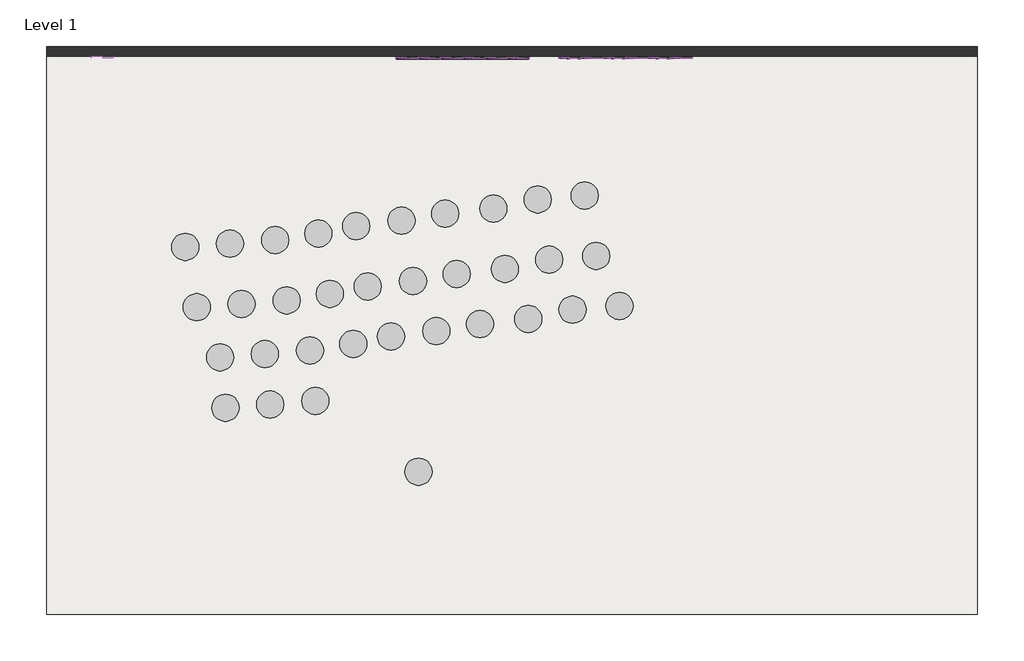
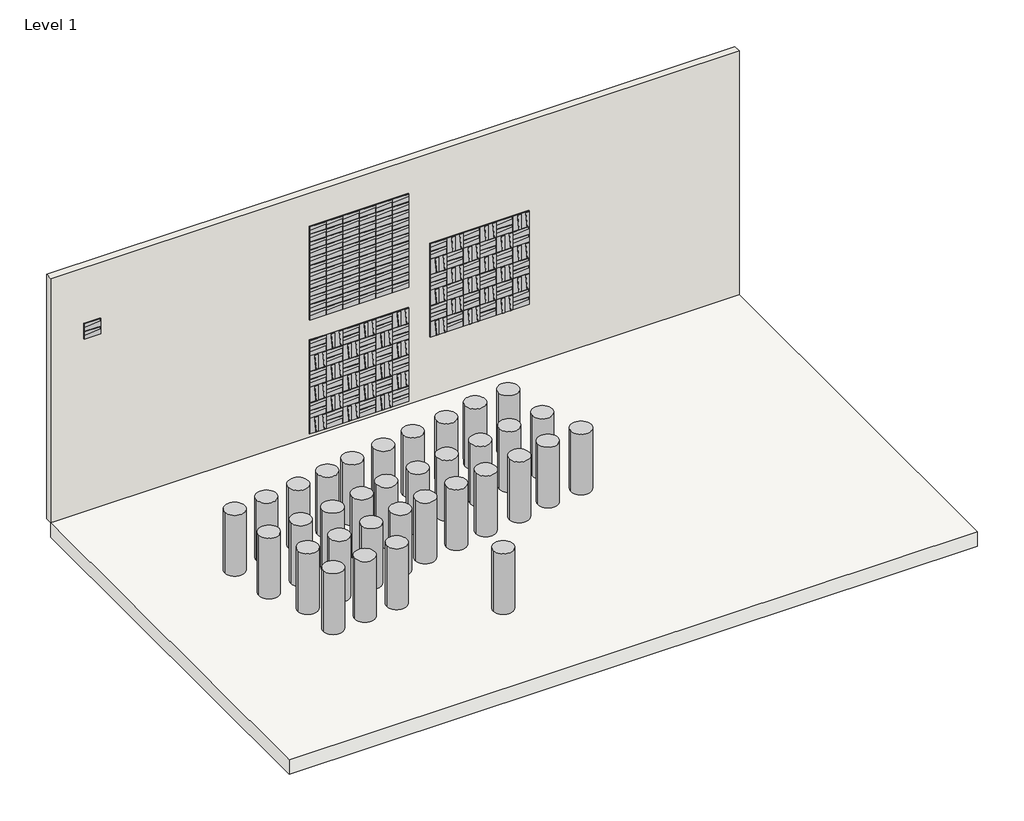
# One storey: 109 proxies, 1 furniture element, 1 slab, 1 wall.
"""IFC4 building model written with IfcOpenShell, lengths in millimetres."""

from ifc_helpers import new_model, si_unit, frame, origin, origin_with_axes, place, context, project, spatial, polyline, outline, extrude, transform, mapped, element, save
from components import dash_tile_b588e03b, furniture_systems_1_furniture_systems_1_472282ec

model = new_model("IFC4")

# Units and contexts
model_context = context("Model", 3, world=origin())
ifc_project = project(units=[si_unit("LENGTHUNIT", "METRE", prefix="MILLI")], contexts=[model_context])

# Site, building, storey
site = spatial("IfcSite", under=ifc_project)
building = spatial("IfcBuilding", under=site)
storey = spatial("IfcBuildingStorey", under=building, Name="Level 1", Elevation=0.0)

# Proxies
placement = place(None, origin())
dash_tile_shape = dash_tile_b588e03b(model_context)
element("IfcBuildingElementProxy", 1, Name="Wall-Panel-Kirei-EchoPanel-Dash_Tile : Dash Tile", ObjectType="Wall-Panel-Kirei-EchoPanel-Dash_Tile : Dash Tile", at=placement, inside=storey, context=model_context, shape_type="MappedRepresentation", body=[
    mapped(dash_tile_shape, transform((-9972.7431076, 6040.5236992, 3384.4821428), x_axis=(1.0, 0.0, 0.0), y_axis=(0.0, 0.0, 1.0), z_axis=(0.0, -1.0, 0.0))),
])
element("IfcBuildingElementProxy", 2, Name="Wall-Panel-Kirei-EchoPanel-Dash_Tile : Dash Tile", ObjectType="Wall-Panel-Kirei-EchoPanel-Dash_Tile : Dash Tile", at=placement, inside=storey, context=model_context, shape_type="MappedRepresentation", body=[
    mapped(dash_tile_shape, transform((-5692.0491633, 6028.5182304, 3816.3740148), x_axis=(1.0, 0.0, 0.0), y_axis=(0.0, 0.0, 1.0), z_axis=(0.0, -1.0, 0.0))),
])
element("IfcBuildingElementProxy", 3, Name="Wall-Panel-Kirei-EchoPanel-Dash_Tile : Dash Tile", ObjectType="Wall-Panel-Kirei-EchoPanel-Dash_Tile : Dash Tile", at=placement, inside=storey, context=model_context, shape_type="MappedRepresentation", body=[
    mapped(dash_tile_shape, transform((-5984.1491633, 6028.5182304, 3816.3740148), x_axis=(1.0, 0.0, 0.0), y_axis=(0.0, 0.0, 1.0), z_axis=(0.0, -1.0, 0.0))),
])
element("IfcBuildingElementProxy", 4, Name="Wall-Panel-Kirei-EchoPanel-Dash_Tile : Dash Tile", ObjectType="Wall-Panel-Kirei-EchoPanel-Dash_Tile : Dash Tile", at=placement, inside=storey, context=model_context, shape_type="MappedRepresentation", body=[
    mapped(dash_tile_shape, transform((-5399.9491633, 6028.5182304, 3816.3740148), x_axis=(1.0, 0.0, 0.0), y_axis=(0.0, 0.0, 1.0), z_axis=(0.0, -1.0, 0.0))),
])
element("IfcBuildingElementProxy", 5, Name="Wall-Panel-Kirei-EchoPanel-Dash_Tile : Dash Tile", ObjectType="Wall-Panel-Kirei-EchoPanel-Dash_Tile : Dash Tile", at=placement, inside=storey, context=model_context, shape_type="MappedRepresentation", body=[
    mapped(dash_tile_shape, transform((-5107.8491633, 6028.5182304, 3816.3740148), x_axis=(1.0, 0.0, 0.0), y_axis=(0.0, 0.0, 1.0), z_axis=(0.0, -1.0, 0.0))),
])
element("IfcBuildingElementProxy", 6, Name="Wall-Panel-Kirei-EchoPanel-Dash_Tile : Dash Tile", ObjectType="Wall-Panel-Kirei-EchoPanel-Dash_Tile : Dash Tile", at=placement, inside=storey, context=model_context, shape_type="MappedRepresentation", body=[
    mapped(dash_tile_shape, transform((-4815.7491633, 6028.5182304, 3816.3740148), x_axis=(1.0, 0.0, 0.0), y_axis=(0.0, 0.0, 1.0), z_axis=(0.0, -1.0, 0.0))),
])
element("IfcBuildingElementProxy", 7, Name="Wall-Panel-Kirei-EchoPanel-Dash_Tile : Dash Tile", ObjectType="Wall-Panel-Kirei-EchoPanel-Dash_Tile : Dash Tile", at=placement, inside=storey, context=model_context, shape_type="MappedRepresentation", body=[
    mapped(dash_tile_shape, transform((-4523.6491633, 6028.5182304, 3816.3740148), x_axis=(1.0, 0.0, 0.0), y_axis=(0.0, 0.0, 1.0), z_axis=(0.0, -1.0, 0.0))),
])
element("IfcBuildingElementProxy", 8, Name="Wall-Panel-Kirei-EchoPanel-Dash_Tile : Dash Tile", ObjectType="Wall-Panel-Kirei-EchoPanel-Dash_Tile : Dash Tile", at=placement, inside=storey, context=model_context, shape_type="MappedRepresentation", body=[
    mapped(dash_tile_shape, transform((-5984.1491633, 6028.5182304, 3524.2740148), x_axis=(1.0, 0.0, 0.0), y_axis=(0.0, 0.0, 1.0), z_axis=(0.0, -1.0, 0.0))),
])
element("IfcBuildingElementProxy", 9, Name="Wall-Panel-Kirei-EchoPanel-Dash_Tile : Dash Tile", ObjectType="Wall-Panel-Kirei-EchoPanel-Dash_Tile : Dash Tile", at=placement, inside=storey, context=model_context, shape_type="MappedRepresentation", body=[
    mapped(dash_tile_shape, transform((-4523.6491633, 6028.5182304, 3524.2740148), x_axis=(1.0, 0.0, 0.0), y_axis=(0.0, 0.0, 1.0), z_axis=(0.0, -1.0, 0.0))),
])
element("IfcBuildingElementProxy", 10, Name="Wall-Panel-Kirei-EchoPanel-Dash_Tile : Dash Tile", ObjectType="Wall-Panel-Kirei-EchoPanel-Dash_Tile : Dash Tile", at=placement, inside=storey, context=model_context, shape_type="MappedRepresentation", body=[
    mapped(dash_tile_shape, transform((-5692.0491633, 6028.5182304, 3524.2740148), x_axis=(1.0, 0.0, 0.0), y_axis=(0.0, 0.0, 1.0), z_axis=(0.0, -1.0, 0.0))),
])
element("IfcBuildingElementProxy", 11, Name="Wall-Panel-Kirei-EchoPanel-Dash_Tile : Dash Tile", ObjectType="Wall-Panel-Kirei-EchoPanel-Dash_Tile : Dash Tile", at=placement, inside=storey, context=model_context, shape_type="MappedRepresentation", body=[
    mapped(dash_tile_shape, transform((-5399.9491633, 6028.5182304, 3524.2740148), x_axis=(1.0, 0.0, 0.0), y_axis=(0.0, 0.0, 1.0), z_axis=(0.0, -1.0, 0.0))),
])
element("IfcBuildingElementProxy", 12, Name="Wall-Panel-Kirei-EchoPanel-Dash_Tile : Dash Tile", ObjectType="Wall-Panel-Kirei-EchoPanel-Dash_Tile : Dash Tile", at=placement, inside=storey, context=model_context, shape_type="MappedRepresentation", body=[
    mapped(dash_tile_shape, transform((-5107.8491633, 6028.5182304, 3524.2740148), x_axis=(1.0, 0.0, 0.0), y_axis=(0.0, 0.0, 1.0), z_axis=(0.0, -1.0, 0.0))),
])
element("IfcBuildingElementProxy", 13, Name="Wall-Panel-Kirei-EchoPanel-Dash_Tile : Dash Tile", ObjectType="Wall-Panel-Kirei-EchoPanel-Dash_Tile : Dash Tile", at=placement, inside=storey, context=model_context, shape_type="MappedRepresentation", body=[
    mapped(dash_tile_shape, transform((-4815.7491633, 6028.5182304, 3524.2740148), x_axis=(1.0, 0.0, 0.0), y_axis=(0.0, 0.0, 1.0), z_axis=(0.0, -1.0, 0.0))),
])
element("IfcBuildingElementProxy", 14, Name="Wall-Panel-Kirei-EchoPanel-Dash_Tile : Dash Tile", ObjectType="Wall-Panel-Kirei-EchoPanel-Dash_Tile : Dash Tile", at=placement, inside=storey, context=model_context, shape_type="MappedRepresentation", body=[
    mapped(dash_tile_shape, transform((-5692.0491633, 6028.5182304, 3232.1740148), x_axis=(1.0, 0.0, 0.0), y_axis=(0.0, 0.0, 1.0), z_axis=(0.0, -1.0, 0.0))),
])
element("IfcBuildingElementProxy", 15, Name="Wall-Panel-Kirei-EchoPanel-Dash_Tile : Dash Tile", ObjectType="Wall-Panel-Kirei-EchoPanel-Dash_Tile : Dash Tile", at=placement, inside=storey, context=model_context, shape_type="MappedRepresentation", body=[
    mapped(dash_tile_shape, transform((-5984.1491633, 6028.5182304, 3232.1740148), x_axis=(1.0, 0.0, 0.0), y_axis=(0.0, 0.0, 1.0), z_axis=(0.0, -1.0, 0.0))),
])
element("IfcBuildingElementProxy", 16, Name="Wall-Panel-Kirei-EchoPanel-Dash_Tile : Dash Tile", ObjectType="Wall-Panel-Kirei-EchoPanel-Dash_Tile : Dash Tile", at=placement, inside=storey, context=model_context, shape_type="MappedRepresentation", body=[
    mapped(dash_tile_shape, transform((-5399.9491633, 6028.5182304, 3232.1740148), x_axis=(1.0, 0.0, 0.0), y_axis=(0.0, 0.0, 1.0), z_axis=(0.0, -1.0, 0.0))),
])
element("IfcBuildingElementProxy", 17, Name="Wall-Panel-Kirei-EchoPanel-Dash_Tile : Dash Tile", ObjectType="Wall-Panel-Kirei-EchoPanel-Dash_Tile : Dash Tile", at=placement, inside=storey, context=model_context, shape_type="MappedRepresentation", body=[
    mapped(dash_tile_shape, transform((-5107.8491633, 6028.5182304, 3232.1740148), x_axis=(1.0, 0.0, 0.0), y_axis=(0.0, 0.0, 1.0), z_axis=(0.0, -1.0, 0.0))),
])
element("IfcBuildingElementProxy", 18, Name="Wall-Panel-Kirei-EchoPanel-Dash_Tile : Dash Tile", ObjectType="Wall-Panel-Kirei-EchoPanel-Dash_Tile : Dash Tile", at=placement, inside=storey, context=model_context, shape_type="MappedRepresentation", body=[
    mapped(dash_tile_shape, transform((-4815.7491633, 6028.5182304, 3232.1740148), x_axis=(1.0, 0.0, 0.0), y_axis=(0.0, 0.0, 1.0), z_axis=(0.0, -1.0, 0.0))),
])
element("IfcBuildingElementProxy", 19, Name="Wall-Panel-Kirei-EchoPanel-Dash_Tile : Dash Tile", ObjectType="Wall-Panel-Kirei-EchoPanel-Dash_Tile : Dash Tile", at=placement, inside=storey, context=model_context, shape_type="MappedRepresentation", body=[
    mapped(dash_tile_shape, transform((-4523.6491633, 6028.5182304, 3232.1740148), x_axis=(1.0, 0.0, 0.0), y_axis=(0.0, 0.0, 1.0), z_axis=(0.0, -1.0, 0.0))),
])
element("IfcBuildingElementProxy", 20, Name="Wall-Panel-Kirei-EchoPanel-Dash_Tile : Dash Tile", ObjectType="Wall-Panel-Kirei-EchoPanel-Dash_Tile : Dash Tile", at=placement, inside=storey, context=model_context, shape_type="MappedRepresentation", body=[
    mapped(dash_tile_shape, transform((-5984.1491633, 6028.5182304, 2940.0740148), x_axis=(1.0, 0.0, 0.0), y_axis=(0.0, 0.0, 1.0), z_axis=(0.0, -1.0, 0.0))),
])
element("IfcBuildingElementProxy", 21, Name="Wall-Panel-Kirei-EchoPanel-Dash_Tile : Dash Tile", ObjectType="Wall-Panel-Kirei-EchoPanel-Dash_Tile : Dash Tile", at=placement, inside=storey, context=model_context, shape_type="MappedRepresentation", body=[
    mapped(dash_tile_shape, transform((-4523.6491633, 6028.5182304, 2940.0740148), x_axis=(1.0, 0.0, 0.0), y_axis=(0.0, 0.0, 1.0), z_axis=(0.0, -1.0, 0.0))),
])
element("IfcBuildingElementProxy", 22, Name="Wall-Panel-Kirei-EchoPanel-Dash_Tile : Dash Tile", ObjectType="Wall-Panel-Kirei-EchoPanel-Dash_Tile : Dash Tile", at=placement, inside=storey, context=model_context, shape_type="MappedRepresentation", body=[
    mapped(dash_tile_shape, transform((-5692.0491633, 6028.5182304, 2940.0740148), x_axis=(1.0, 0.0, 0.0), y_axis=(0.0, 0.0, 1.0), z_axis=(0.0, -1.0, 0.0))),
])
element("IfcBuildingElementProxy", 23, Name="Wall-Panel-Kirei-EchoPanel-Dash_Tile : Dash Tile", ObjectType="Wall-Panel-Kirei-EchoPanel-Dash_Tile : Dash Tile", at=placement, inside=storey, context=model_context, shape_type="MappedRepresentation", body=[
    mapped(dash_tile_shape, transform((-5399.9491633, 6028.5182304, 2940.0740148), x_axis=(1.0, 0.0, 0.0), y_axis=(0.0, 0.0, 1.0), z_axis=(0.0, -1.0, 0.0))),
])
element("IfcBuildingElementProxy", 24, Name="Wall-Panel-Kirei-EchoPanel-Dash_Tile : Dash Tile", ObjectType="Wall-Panel-Kirei-EchoPanel-Dash_Tile : Dash Tile", at=placement, inside=storey, context=model_context, shape_type="MappedRepresentation", body=[
    mapped(dash_tile_shape, transform((-5107.8491633, 6028.5182304, 2940.0740148), x_axis=(1.0, 0.0, 0.0), y_axis=(0.0, 0.0, 1.0), z_axis=(0.0, -1.0, 0.0))),
])
element("IfcBuildingElementProxy", 25, Name="Wall-Panel-Kirei-EchoPanel-Dash_Tile : Dash Tile", ObjectType="Wall-Panel-Kirei-EchoPanel-Dash_Tile : Dash Tile", at=placement, inside=storey, context=model_context, shape_type="MappedRepresentation", body=[
    mapped(dash_tile_shape, transform((-4815.7491633, 6028.5182304, 2940.0740148), x_axis=(1.0, 0.0, 0.0), y_axis=(0.0, 0.0, 1.0), z_axis=(0.0, -1.0, 0.0))),
])
element("IfcBuildingElementProxy", 26, Name="Wall-Panel-Kirei-EchoPanel-Dash_Tile : Dash Tile", ObjectType="Wall-Panel-Kirei-EchoPanel-Dash_Tile : Dash Tile", at=placement, inside=storey, context=model_context, shape_type="MappedRepresentation", body=[
    mapped(dash_tile_shape, transform((-5692.0491633, 6028.5182304, 2647.9740148), x_axis=(1.0, 0.0, 0.0), y_axis=(0.0, 0.0, 1.0), z_axis=(0.0, -1.0, 0.0))),
])
element("IfcBuildingElementProxy", 27, Name="Wall-Panel-Kirei-EchoPanel-Dash_Tile : Dash Tile", ObjectType="Wall-Panel-Kirei-EchoPanel-Dash_Tile : Dash Tile", at=placement, inside=storey, context=model_context, shape_type="MappedRepresentation", body=[
    mapped(dash_tile_shape, transform((-5984.1491633, 6028.5182304, 2647.9740148), x_axis=(1.0, 0.0, 0.0), y_axis=(0.0, 0.0, 1.0), z_axis=(0.0, -1.0, 0.0))),
])
element("IfcBuildingElementProxy", 28, Name="Wall-Panel-Kirei-EchoPanel-Dash_Tile : Dash Tile", ObjectType="Wall-Panel-Kirei-EchoPanel-Dash_Tile : Dash Tile", at=placement, inside=storey, context=model_context, shape_type="MappedRepresentation", body=[
    mapped(dash_tile_shape, transform((-5399.9491633, 6028.5182304, 2647.9740148), x_axis=(1.0, 0.0, 0.0), y_axis=(0.0, 0.0, 1.0), z_axis=(0.0, -1.0, 0.0))),
])
element("IfcBuildingElementProxy", 29, Name="Wall-Panel-Kirei-EchoPanel-Dash_Tile : Dash Tile", ObjectType="Wall-Panel-Kirei-EchoPanel-Dash_Tile : Dash Tile", at=placement, inside=storey, context=model_context, shape_type="MappedRepresentation", body=[
    mapped(dash_tile_shape, transform((-5107.8491633, 6028.5182304, 2647.9740148), x_axis=(1.0, 0.0, 0.0), y_axis=(0.0, 0.0, 1.0), z_axis=(0.0, -1.0, 0.0))),
])
element("IfcBuildingElementProxy", 30, Name="Wall-Panel-Kirei-EchoPanel-Dash_Tile : Dash Tile", ObjectType="Wall-Panel-Kirei-EchoPanel-Dash_Tile : Dash Tile", at=placement, inside=storey, context=model_context, shape_type="MappedRepresentation", body=[
    mapped(dash_tile_shape, transform((-4815.7491633, 6028.5182304, 2647.9740148), x_axis=(1.0, 0.0, 0.0), y_axis=(0.0, 0.0, 1.0), z_axis=(0.0, -1.0, 0.0))),
])
element("IfcBuildingElementProxy", 31, Name="Wall-Panel-Kirei-EchoPanel-Dash_Tile : Dash Tile", ObjectType="Wall-Panel-Kirei-EchoPanel-Dash_Tile : Dash Tile", at=placement, inside=storey, context=model_context, shape_type="MappedRepresentation", body=[
    mapped(dash_tile_shape, transform((-4523.6491633, 6028.5182304, 2647.9740148), x_axis=(1.0, 0.0, 0.0), y_axis=(0.0, 0.0, 1.0), z_axis=(0.0, -1.0, 0.0))),
])
element("IfcBuildingElementProxy", 32, Name="Wall-Panel-Kirei-EchoPanel-Dash_Tile : Dash Tile", ObjectType="Wall-Panel-Kirei-EchoPanel-Dash_Tile : Dash Tile", at=placement, inside=storey, context=model_context, shape_type="MappedRepresentation", body=[
    mapped(dash_tile_shape, transform((-5984.1491633, 6028.5182304, 2355.8740148), x_axis=(1.0, 0.0, 0.0), y_axis=(0.0, 0.0, 1.0), z_axis=(0.0, -1.0, 0.0))),
])
element("IfcBuildingElementProxy", 33, Name="Wall-Panel-Kirei-EchoPanel-Dash_Tile : Dash Tile", ObjectType="Wall-Panel-Kirei-EchoPanel-Dash_Tile : Dash Tile", at=placement, inside=storey, context=model_context, shape_type="MappedRepresentation", body=[
    mapped(dash_tile_shape, transform((-4523.6491633, 6028.5182304, 2355.8740148), x_axis=(1.0, 0.0, 0.0), y_axis=(0.0, 0.0, 1.0), z_axis=(0.0, -1.0, 0.0))),
])
element("IfcBuildingElementProxy", 34, Name="Wall-Panel-Kirei-EchoPanel-Dash_Tile : Dash Tile", ObjectType="Wall-Panel-Kirei-EchoPanel-Dash_Tile : Dash Tile", at=placement, inside=storey, context=model_context, shape_type="MappedRepresentation", body=[
    mapped(dash_tile_shape, transform((-5692.0491633, 6028.5182304, 2355.8740148), x_axis=(1.0, 0.0, 0.0), y_axis=(0.0, 0.0, 1.0), z_axis=(0.0, -1.0, 0.0))),
])
element("IfcBuildingElementProxy", 35, Name="Wall-Panel-Kirei-EchoPanel-Dash_Tile : Dash Tile", ObjectType="Wall-Panel-Kirei-EchoPanel-Dash_Tile : Dash Tile", at=placement, inside=storey, context=model_context, shape_type="MappedRepresentation", body=[
    mapped(dash_tile_shape, transform((-5399.9491633, 6028.5182304, 2355.8740148), x_axis=(1.0, 0.0, 0.0), y_axis=(0.0, 0.0, 1.0), z_axis=(0.0, -1.0, 0.0))),
])
element("IfcBuildingElementProxy", 36, Name="Wall-Panel-Kirei-EchoPanel-Dash_Tile : Dash Tile", ObjectType="Wall-Panel-Kirei-EchoPanel-Dash_Tile : Dash Tile", at=placement, inside=storey, context=model_context, shape_type="MappedRepresentation", body=[
    mapped(dash_tile_shape, transform((-5107.8491633, 6028.5182304, 2355.8740148), x_axis=(1.0, 0.0, 0.0), y_axis=(0.0, 0.0, 1.0), z_axis=(0.0, -1.0, 0.0))),
])
element("IfcBuildingElementProxy", 37, Name="Wall-Panel-Kirei-EchoPanel-Dash_Tile : Dash Tile", ObjectType="Wall-Panel-Kirei-EchoPanel-Dash_Tile : Dash Tile", at=placement, inside=storey, context=model_context, shape_type="MappedRepresentation", body=[
    mapped(dash_tile_shape, transform((-4815.7491633, 6028.5182304, 2355.8740148), x_axis=(1.0, 0.0, 0.0), y_axis=(0.0, 0.0, 1.0), z_axis=(0.0, -1.0, 0.0))),
])
element("IfcBuildingElementProxy", 38, Name="Wall-Panel-Kirei-EchoPanel-Dash_Tile : Dash Tile", ObjectType="Wall-Panel-Kirei-EchoPanel-Dash_Tile : Dash Tile", at=placement, inside=storey, context=model_context, shape_type="MappedRepresentation", body=[
    mapped(dash_tile_shape, transform((-5984.1491633, 6028.5182304, 1682.7740148), x_axis=(1.0, 0.0, 0.0), y_axis=(0.0, 0.0, 1.0), z_axis=(0.0, -1.0, 0.0))),
])
element("IfcBuildingElementProxy", 39, Name="Wall-Panel-Kirei-EchoPanel-Dash_Tile : Dash Tile", ObjectType="Wall-Panel-Kirei-EchoPanel-Dash_Tile : Dash Tile", at=placement, inside=storey, context=model_context, shape_type="MappedRepresentation", body=[
    mapped(dash_tile_shape, transform((-5399.9491633, 6028.5182304, 1682.7740148), x_axis=(1.0, 0.0, 0.0), y_axis=(0.0, 0.0, 1.0), z_axis=(0.0, -1.0, 0.0))),
])
element("IfcBuildingElementProxy", 40, Name="Wall-Panel-Kirei-EchoPanel-Dash_Tile : Dash Tile", ObjectType="Wall-Panel-Kirei-EchoPanel-Dash_Tile : Dash Tile", at=placement, inside=storey, context=model_context, shape_type="MappedRepresentation", body=[
    mapped(dash_tile_shape, transform((-4815.7491633, 6028.5182304, 1682.7740148), x_axis=(1.0, 0.0, 0.0), y_axis=(0.0, 0.0, 1.0), z_axis=(0.0, -1.0, 0.0))),
])
element("IfcBuildingElementProxy", 41, Name="Wall-Panel-Kirei-EchoPanel-Dash_Tile : Dash Tile", ObjectType="Wall-Panel-Kirei-EchoPanel-Dash_Tile : Dash Tile", at=placement, inside=storey, context=model_context, shape_type="MappedRepresentation", body=[
    mapped(dash_tile_shape, transform((-4523.6491633, 6028.5182304, 1390.6740148), x_axis=(1.0, 0.0, 0.0), y_axis=(0.0, 0.0, 1.0), z_axis=(0.0, -1.0, 0.0))),
])
element("IfcBuildingElementProxy", 42, Name="Wall-Panel-Kirei-EchoPanel-Dash_Tile : Dash Tile", ObjectType="Wall-Panel-Kirei-EchoPanel-Dash_Tile : Dash Tile", at=placement, inside=storey, context=model_context, shape_type="MappedRepresentation", body=[
    mapped(dash_tile_shape, transform((-5692.0491633, 6028.5182304, 1390.6740148), x_axis=(1.0, 0.0, 0.0), y_axis=(0.0, 0.0, 1.0), z_axis=(0.0, -1.0, 0.0))),
])
element("IfcBuildingElementProxy", 43, Name="Wall-Panel-Kirei-EchoPanel-Dash_Tile : Dash Tile", ObjectType="Wall-Panel-Kirei-EchoPanel-Dash_Tile : Dash Tile", at=placement, inside=storey, context=model_context, shape_type="MappedRepresentation", body=[
    mapped(dash_tile_shape, transform((-5107.8491633, 6028.5182304, 1390.6740148), x_axis=(1.0, 0.0, 0.0), y_axis=(0.0, 0.0, 1.0), z_axis=(0.0, -1.0, 0.0))),
])
element("IfcBuildingElementProxy", 44, Name="Wall-Panel-Kirei-EchoPanel-Dash_Tile : Dash Tile", ObjectType="Wall-Panel-Kirei-EchoPanel-Dash_Tile : Dash Tile", at=placement, inside=storey, context=model_context, shape_type="MappedRepresentation", body=[
    mapped(dash_tile_shape, transform((-5984.1491633, 6028.5182304, 1098.5740148), x_axis=(1.0, 0.0, 0.0), y_axis=(0.0, 0.0, 1.0), z_axis=(0.0, -1.0, 0.0))),
])
element("IfcBuildingElementProxy", 45, Name="Wall-Panel-Kirei-EchoPanel-Dash_Tile : Dash Tile", ObjectType="Wall-Panel-Kirei-EchoPanel-Dash_Tile : Dash Tile", at=placement, inside=storey, context=model_context, shape_type="MappedRepresentation", body=[
    mapped(dash_tile_shape, transform((-5399.9491633, 6028.5182304, 1098.5740148), x_axis=(1.0, 0.0, 0.0), y_axis=(0.0, 0.0, 1.0), z_axis=(0.0, -1.0, 0.0))),
])
element("IfcBuildingElementProxy", 46, Name="Wall-Panel-Kirei-EchoPanel-Dash_Tile : Dash Tile", ObjectType="Wall-Panel-Kirei-EchoPanel-Dash_Tile : Dash Tile", at=placement, inside=storey, context=model_context, shape_type="MappedRepresentation", body=[
    mapped(dash_tile_shape, transform((-4815.7491633, 6028.5182304, 1098.5740148), x_axis=(1.0, 0.0, 0.0), y_axis=(0.0, 0.0, 1.0), z_axis=(0.0, -1.0, 0.0))),
])
element("IfcBuildingElementProxy", 47, Name="Wall-Panel-Kirei-EchoPanel-Dash_Tile : Dash Tile", ObjectType="Wall-Panel-Kirei-EchoPanel-Dash_Tile : Dash Tile", at=placement, inside=storey, context=model_context, shape_type="MappedRepresentation", body=[
    mapped(dash_tile_shape, transform((-4523.6491633, 6028.5182304, 806.4740148), x_axis=(1.0, 0.0, 0.0), y_axis=(0.0, 0.0, 1.0), z_axis=(0.0, -1.0, 0.0))),
])
element("IfcBuildingElementProxy", 48, Name="Wall-Panel-Kirei-EchoPanel-Dash_Tile : Dash Tile", ObjectType="Wall-Panel-Kirei-EchoPanel-Dash_Tile : Dash Tile", at=placement, inside=storey, context=model_context, shape_type="MappedRepresentation", body=[
    mapped(dash_tile_shape, transform((-5692.0491633, 6028.5182304, 806.4740148), x_axis=(1.0, 0.0, 0.0), y_axis=(0.0, 0.0, 1.0), z_axis=(0.0, -1.0, 0.0))),
])
element("IfcBuildingElementProxy", 49, Name="Wall-Panel-Kirei-EchoPanel-Dash_Tile : Dash Tile", ObjectType="Wall-Panel-Kirei-EchoPanel-Dash_Tile : Dash Tile", at=placement, inside=storey, context=model_context, shape_type="MappedRepresentation", body=[
    mapped(dash_tile_shape, transform((-5107.8491633, 6028.5182304, 806.4740148), x_axis=(1.0, 0.0, 0.0), y_axis=(0.0, 0.0, 1.0), z_axis=(0.0, -1.0, 0.0))),
])
element("IfcBuildingElementProxy", 50, Name="Wall-Panel-Kirei-EchoPanel-Dash_Tile : Dash Tile", ObjectType="Wall-Panel-Kirei-EchoPanel-Dash_Tile : Dash Tile", at=placement, inside=storey, context=model_context, shape_type="MappedRepresentation", body=[
    mapped(dash_tile_shape, transform((-5984.1491633, 6028.5182304, 514.3740148), x_axis=(1.0, 0.0, 0.0), y_axis=(0.0, 0.0, 1.0), z_axis=(0.0, -1.0, 0.0))),
])
element("IfcBuildingElementProxy", 51, Name="Wall-Panel-Kirei-EchoPanel-Dash_Tile : Dash Tile", ObjectType="Wall-Panel-Kirei-EchoPanel-Dash_Tile : Dash Tile", at=placement, inside=storey, context=model_context, shape_type="MappedRepresentation", body=[
    mapped(dash_tile_shape, transform((-5399.9491633, 6028.5182304, 514.3740148), x_axis=(1.0, 0.0, 0.0), y_axis=(0.0, 0.0, 1.0), z_axis=(0.0, -1.0, 0.0))),
])
element("IfcBuildingElementProxy", 52, Name="Wall-Panel-Kirei-EchoPanel-Dash_Tile : Dash Tile", ObjectType="Wall-Panel-Kirei-EchoPanel-Dash_Tile : Dash Tile", at=placement, inside=storey, context=model_context, shape_type="MappedRepresentation", body=[
    mapped(dash_tile_shape, transform((-4815.7491633, 6028.5182304, 514.3740148), x_axis=(1.0, 0.0, 0.0), y_axis=(0.0, 0.0, 1.0), z_axis=(0.0, -1.0, 0.0))),
])
element("IfcBuildingElementProxy", 53, Name="Wall-Panel-Kirei-EchoPanel-Dash_Tile : Dash Tile", ObjectType="Wall-Panel-Kirei-EchoPanel-Dash_Tile : Dash Tile", at=placement, inside=storey, context=model_context, shape_type="MappedRepresentation", body=[
    mapped(dash_tile_shape, transform((-4523.6491633, 6028.5182304, 222.2740148), x_axis=(1.0, 0.0, 0.0), y_axis=(0.0, 0.0, 1.0), z_axis=(0.0, -1.0, 0.0))),
])
element("IfcBuildingElementProxy", 54, Name="Wall-Panel-Kirei-EchoPanel-Dash_Tile : Dash Tile", ObjectType="Wall-Panel-Kirei-EchoPanel-Dash_Tile : Dash Tile", at=placement, inside=storey, context=model_context, shape_type="MappedRepresentation", body=[
    mapped(dash_tile_shape, transform((-5692.0491633, 6028.5182304, 222.2740148), x_axis=(1.0, 0.0, 0.0), y_axis=(0.0, 0.0, 1.0), z_axis=(0.0, -1.0, 0.0))),
])
element("IfcBuildingElementProxy", 55, Name="Wall-Panel-Kirei-EchoPanel-Dash_Tile : Dash Tile", ObjectType="Wall-Panel-Kirei-EchoPanel-Dash_Tile : Dash Tile", at=placement, inside=storey, context=model_context, shape_type="MappedRepresentation", body=[
    mapped(dash_tile_shape, transform((-5107.8491633, 6028.5182304, 222.2740148), x_axis=(1.0, 0.0, 0.0), y_axis=(0.0, 0.0, 1.0), z_axis=(0.0, -1.0, 0.0))),
])
element("IfcBuildingElementProxy", 56, Name="Wall-Panel-Kirei-EchoPanel-Dash_Tile : Dash Tile", ObjectType="Wall-Panel-Kirei-EchoPanel-Dash_Tile : Dash Tile", at=placement, inside=storey, context=model_context, shape_type="MappedRepresentation", body=[
    mapped(dash_tile_shape, transform((-5683.3675226, 6028.5182304, 1691.4556554), x_axis=(0.0, 0.0, -1.0), y_axis=(1.0, 0.0, 0.0), z_axis=(0.0, -1.0, 0.0))),
])
element("IfcBuildingElementProxy", 57, Name="Wall-Panel-Kirei-EchoPanel-Dash_Tile : Dash Tile", ObjectType="Wall-Panel-Kirei-EchoPanel-Dash_Tile : Dash Tile", at=placement, inside=storey, context=model_context, shape_type="MappedRepresentation", body=[
    mapped(dash_tile_shape, transform((-5099.1675226, 6028.5182304, 1691.4556554), x_axis=(0.0, 0.0, -1.0), y_axis=(1.0, 0.0, 0.0), z_axis=(0.0, -1.0, 0.0))),
])
element("IfcBuildingElementProxy", 58, Name="Wall-Panel-Kirei-EchoPanel-Dash_Tile : Dash Tile", ObjectType="Wall-Panel-Kirei-EchoPanel-Dash_Tile : Dash Tile", at=placement, inside=storey, context=model_context, shape_type="MappedRepresentation", body=[
    mapped(dash_tile_shape, transform((-4514.9675226, 6028.5182304, 1691.4556554), x_axis=(0.0, 0.0, -1.0), y_axis=(1.0, 0.0, 0.0), z_axis=(0.0, -1.0, 0.0))),
])
element("IfcBuildingElementProxy", 59, Name="Wall-Panel-Kirei-EchoPanel-Dash_Tile : Dash Tile", ObjectType="Wall-Panel-Kirei-EchoPanel-Dash_Tile : Dash Tile", at=placement, inside=storey, context=model_context, shape_type="MappedRepresentation", body=[
    mapped(dash_tile_shape, transform((-5975.4675226, 6028.5182304, 1399.3556554), x_axis=(0.0, 0.0, -1.0), y_axis=(1.0, 0.0, 0.0), z_axis=(0.0, -1.0, 0.0))),
])
element("IfcBuildingElementProxy", 60, Name="Wall-Panel-Kirei-EchoPanel-Dash_Tile : Dash Tile", ObjectType="Wall-Panel-Kirei-EchoPanel-Dash_Tile : Dash Tile", at=placement, inside=storey, context=model_context, shape_type="MappedRepresentation", body=[
    mapped(dash_tile_shape, transform((-5391.2675226, 6028.5182304, 1399.3556554), x_axis=(0.0, 0.0, -1.0), y_axis=(1.0, 0.0, 0.0), z_axis=(0.0, -1.0, 0.0))),
])
element("IfcBuildingElementProxy", 61, Name="Wall-Panel-Kirei-EchoPanel-Dash_Tile : Dash Tile", ObjectType="Wall-Panel-Kirei-EchoPanel-Dash_Tile : Dash Tile", at=placement, inside=storey, context=model_context, shape_type="MappedRepresentation", body=[
    mapped(dash_tile_shape, transform((-4807.0675226, 6028.5182304, 1399.3556554), x_axis=(0.0, 0.0, -1.0), y_axis=(1.0, 0.0, 0.0), z_axis=(0.0, -1.0, 0.0))),
])
element("IfcBuildingElementProxy", 62, Name="Wall-Panel-Kirei-EchoPanel-Dash_Tile : Dash Tile", ObjectType="Wall-Panel-Kirei-EchoPanel-Dash_Tile : Dash Tile", at=placement, inside=storey, context=model_context, shape_type="MappedRepresentation", body=[
    mapped(dash_tile_shape, transform((-5683.3675226, 6028.5182304, 1107.2556554), x_axis=(0.0, 0.0, -1.0), y_axis=(1.0, 0.0, 0.0), z_axis=(0.0, -1.0, 0.0))),
])
element("IfcBuildingElementProxy", 63, Name="Wall-Panel-Kirei-EchoPanel-Dash_Tile : Dash Tile", ObjectType="Wall-Panel-Kirei-EchoPanel-Dash_Tile : Dash Tile", at=placement, inside=storey, context=model_context, shape_type="MappedRepresentation", body=[
    mapped(dash_tile_shape, transform((-5099.1675226, 6028.5182304, 1107.2556554), x_axis=(0.0, 0.0, -1.0), y_axis=(1.0, 0.0, 0.0), z_axis=(0.0, -1.0, 0.0))),
])
element("IfcBuildingElementProxy", 64, Name="Wall-Panel-Kirei-EchoPanel-Dash_Tile : Dash Tile", ObjectType="Wall-Panel-Kirei-EchoPanel-Dash_Tile : Dash Tile", at=placement, inside=storey, context=model_context, shape_type="MappedRepresentation", body=[
    mapped(dash_tile_shape, transform((-4514.9675226, 6028.5182304, 1107.2556554), x_axis=(0.0, 0.0, -1.0), y_axis=(1.0, 0.0, 0.0), z_axis=(0.0, -1.0, 0.0))),
])
element("IfcBuildingElementProxy", 65, Name="Wall-Panel-Kirei-EchoPanel-Dash_Tile : Dash Tile", ObjectType="Wall-Panel-Kirei-EchoPanel-Dash_Tile : Dash Tile", at=placement, inside=storey, context=model_context, shape_type="MappedRepresentation", body=[
    mapped(dash_tile_shape, transform((-5975.4675226, 6028.5182304, 815.1556554), x_axis=(0.0, 0.0, -1.0), y_axis=(1.0, 0.0, 0.0), z_axis=(0.0, -1.0, 0.0))),
])
element("IfcBuildingElementProxy", 66, Name="Wall-Panel-Kirei-EchoPanel-Dash_Tile : Dash Tile", ObjectType="Wall-Panel-Kirei-EchoPanel-Dash_Tile : Dash Tile", at=placement, inside=storey, context=model_context, shape_type="MappedRepresentation", body=[
    mapped(dash_tile_shape, transform((-5391.2675226, 6028.5182304, 815.1556554), x_axis=(0.0, 0.0, -1.0), y_axis=(1.0, 0.0, 0.0), z_axis=(0.0, -1.0, 0.0))),
])
element("IfcBuildingElementProxy", 67, Name="Wall-Panel-Kirei-EchoPanel-Dash_Tile : Dash Tile", ObjectType="Wall-Panel-Kirei-EchoPanel-Dash_Tile : Dash Tile", at=placement, inside=storey, context=model_context, shape_type="MappedRepresentation", body=[
    mapped(dash_tile_shape, transform((-4807.0675226, 6028.5182304, 815.1556554), x_axis=(0.0, 0.0, -1.0), y_axis=(1.0, 0.0, 0.0), z_axis=(0.0, -1.0, 0.0))),
])
element("IfcBuildingElementProxy", 68, Name="Wall-Panel-Kirei-EchoPanel-Dash_Tile : Dash Tile", ObjectType="Wall-Panel-Kirei-EchoPanel-Dash_Tile : Dash Tile", at=placement, inside=storey, context=model_context, shape_type="MappedRepresentation", body=[
    mapped(dash_tile_shape, transform((-4514.9675226, 6028.5182304, 523.0556554), x_axis=(0.0, 0.0, -1.0), y_axis=(1.0, 0.0, 0.0), z_axis=(0.0, -1.0, 0.0))),
])
element("IfcBuildingElementProxy", 69, Name="Wall-Panel-Kirei-EchoPanel-Dash_Tile : Dash Tile", ObjectType="Wall-Panel-Kirei-EchoPanel-Dash_Tile : Dash Tile", at=placement, inside=storey, context=model_context, shape_type="MappedRepresentation", body=[
    mapped(dash_tile_shape, transform((-5099.1675226, 6028.5182304, 523.0556554), x_axis=(0.0, 0.0, -1.0), y_axis=(1.0, 0.0, 0.0), z_axis=(0.0, -1.0, 0.0))),
])
element("IfcBuildingElementProxy", 70, Name="Wall-Panel-Kirei-EchoPanel-Dash_Tile : Dash Tile", ObjectType="Wall-Panel-Kirei-EchoPanel-Dash_Tile : Dash Tile", at=placement, inside=storey, context=model_context, shape_type="MappedRepresentation", body=[
    mapped(dash_tile_shape, transform((-5683.3675226, 6028.5182304, 523.0556554), x_axis=(0.0, 0.0, -1.0), y_axis=(1.0, 0.0, 0.0), z_axis=(0.0, -1.0, 0.0))),
])
element("IfcBuildingElementProxy", 71, Name="Wall-Panel-Kirei-EchoPanel-Dash_Tile : Dash Tile", ObjectType="Wall-Panel-Kirei-EchoPanel-Dash_Tile : Dash Tile", at=placement, inside=storey, context=model_context, shape_type="MappedRepresentation", body=[
    mapped(dash_tile_shape, transform((-5975.4675226, 6028.5182304, 230.9556554), x_axis=(0.0, 0.0, -1.0), y_axis=(1.0, 0.0, 0.0), z_axis=(0.0, -1.0, 0.0))),
])
element("IfcBuildingElementProxy", 72, Name="Wall-Panel-Kirei-EchoPanel-Dash_Tile : Dash Tile", ObjectType="Wall-Panel-Kirei-EchoPanel-Dash_Tile : Dash Tile", at=placement, inside=storey, context=model_context, shape_type="MappedRepresentation", body=[
    mapped(dash_tile_shape, transform((-5391.2675226, 6028.5182304, 230.9556554), x_axis=(0.0, 0.0, -1.0), y_axis=(1.0, 0.0, 0.0), z_axis=(0.0, -1.0, 0.0))),
])
element("IfcBuildingElementProxy", 73, Name="Wall-Panel-Kirei-EchoPanel-Dash_Tile : Dash Tile", ObjectType="Wall-Panel-Kirei-EchoPanel-Dash_Tile : Dash Tile", at=placement, inside=storey, context=model_context, shape_type="MappedRepresentation", body=[
    mapped(dash_tile_shape, transform((-4807.0675226, 6028.5182304, 230.9556554), x_axis=(0.0, 0.0, -1.0), y_axis=(1.0, 0.0, 0.0), z_axis=(0.0, -1.0, 0.0))),
])
element("IfcBuildingElementProxy", 74, Name="Wall-Panel-Kirei-EchoPanel-Dash_Tile : Dash Tile", ObjectType="Wall-Panel-Kirei-EchoPanel-Dash_Tile : Dash Tile", at=placement, inside=storey, context=model_context, shape_type="MappedRepresentation", body=[
    mapped(dash_tile_shape, transform((-3549.7675226, 6028.5182304, 2758.2556554), x_axis=(0.0, 0.0, -1.0), y_axis=(1.0, 0.0, 0.0), z_axis=(0.0, -1.0, 0.0))),
])
element("IfcBuildingElementProxy", 75, Name="Wall-Panel-Kirei-EchoPanel-Dash_Tile : Dash Tile", ObjectType="Wall-Panel-Kirei-EchoPanel-Dash_Tile : Dash Tile", at=placement, inside=storey, context=model_context, shape_type="MappedRepresentation", body=[
    mapped(dash_tile_shape, transform((-3850.5491633, 6028.5182304, 2749.5740148), x_axis=(1.0, 0.0, 0.0), y_axis=(0.0, 0.0, 1.0), z_axis=(0.0, -1.0, 0.0))),
])
element("IfcBuildingElementProxy", 76, Name="Wall-Panel-Kirei-EchoPanel-Dash_Tile : Dash Tile", ObjectType="Wall-Panel-Kirei-EchoPanel-Dash_Tile : Dash Tile", at=placement, inside=storey, context=model_context, shape_type="MappedRepresentation", body=[
    mapped(dash_tile_shape, transform((-3266.3491633, 6028.5182304, 2749.5740148), x_axis=(1.0, 0.0, 0.0), y_axis=(0.0, 0.0, 1.0), z_axis=(0.0, -1.0, 0.0))),
])
element("IfcBuildingElementProxy", 77, Name="Wall-Panel-Kirei-EchoPanel-Dash_Tile : Dash Tile", ObjectType="Wall-Panel-Kirei-EchoPanel-Dash_Tile : Dash Tile", at=placement, inside=storey, context=model_context, shape_type="MappedRepresentation", body=[
    mapped(dash_tile_shape, transform((-2682.1491633, 6028.5182304, 2749.5740148), x_axis=(1.0, 0.0, 0.0), y_axis=(0.0, 0.0, 1.0), z_axis=(0.0, -1.0, 0.0))),
])
element("IfcBuildingElementProxy", 78, Name="Wall-Panel-Kirei-EchoPanel-Dash_Tile : Dash Tile", ObjectType="Wall-Panel-Kirei-EchoPanel-Dash_Tile : Dash Tile", at=placement, inside=storey, context=model_context, shape_type="MappedRepresentation", body=[
    mapped(dash_tile_shape, transform((-3850.5491633, 6028.5182304, 2165.3740148), x_axis=(1.0, 0.0, 0.0), y_axis=(0.0, 0.0, 1.0), z_axis=(0.0, -1.0, 0.0))),
])
element("IfcBuildingElementProxy", 79, Name="Wall-Panel-Kirei-EchoPanel-Dash_Tile : Dash Tile", ObjectType="Wall-Panel-Kirei-EchoPanel-Dash_Tile : Dash Tile", at=placement, inside=storey, context=model_context, shape_type="MappedRepresentation", body=[
    mapped(dash_tile_shape, transform((-3266.3491633, 6028.5182304, 2165.3740148), x_axis=(1.0, 0.0, 0.0), y_axis=(0.0, 0.0, 1.0), z_axis=(0.0, -1.0, 0.0))),
])
element("IfcBuildingElementProxy", 80, Name="Wall-Panel-Kirei-EchoPanel-Dash_Tile : Dash Tile", ObjectType="Wall-Panel-Kirei-EchoPanel-Dash_Tile : Dash Tile", at=placement, inside=storey, context=model_context, shape_type="MappedRepresentation", body=[
    mapped(dash_tile_shape, transform((-2682.1491633, 6028.5182304, 2165.3740148), x_axis=(1.0, 0.0, 0.0), y_axis=(0.0, 0.0, 1.0), z_axis=(0.0, -1.0, 0.0))),
])
element("IfcBuildingElementProxy", 81, Name="Wall-Panel-Kirei-EchoPanel-Dash_Tile : Dash Tile", ObjectType="Wall-Panel-Kirei-EchoPanel-Dash_Tile : Dash Tile", at=placement, inside=storey, context=model_context, shape_type="MappedRepresentation", body=[
    mapped(dash_tile_shape, transform((-3850.5491633, 6028.5182304, 1581.1740148), x_axis=(1.0, 0.0, 0.0), y_axis=(0.0, 0.0, 1.0), z_axis=(0.0, -1.0, 0.0))),
])
element("IfcBuildingElementProxy", 82, Name="Wall-Panel-Kirei-EchoPanel-Dash_Tile : Dash Tile", ObjectType="Wall-Panel-Kirei-EchoPanel-Dash_Tile : Dash Tile", at=placement, inside=storey, context=model_context, shape_type="MappedRepresentation", body=[
    mapped(dash_tile_shape, transform((-3266.3491633, 6028.5182304, 1581.1740148), x_axis=(1.0, 0.0, 0.0), y_axis=(0.0, 0.0, 1.0), z_axis=(0.0, -1.0, 0.0))),
])
element("IfcBuildingElementProxy", 83, Name="Wall-Panel-Kirei-EchoPanel-Dash_Tile : Dash Tile", ObjectType="Wall-Panel-Kirei-EchoPanel-Dash_Tile : Dash Tile", at=placement, inside=storey, context=model_context, shape_type="MappedRepresentation", body=[
    mapped(dash_tile_shape, transform((-2682.1491633, 6028.5182304, 1581.1740148), x_axis=(1.0, 0.0, 0.0), y_axis=(0.0, 0.0, 1.0), z_axis=(0.0, -1.0, 0.0))),
])
element("IfcBuildingElementProxy", 84, Name="Wall-Panel-Kirei-EchoPanel-Dash_Tile : Dash Tile", ObjectType="Wall-Panel-Kirei-EchoPanel-Dash_Tile : Dash Tile", at=placement, inside=storey, context=model_context, shape_type="MappedRepresentation", body=[
    mapped(dash_tile_shape, transform((-2965.5675226, 6028.5182304, 2758.2556554), x_axis=(0.0, 0.0, -1.0), y_axis=(1.0, 0.0, 0.0), z_axis=(0.0, -1.0, 0.0))),
])
element("IfcBuildingElementProxy", 85, Name="Wall-Panel-Kirei-EchoPanel-Dash_Tile : Dash Tile", ObjectType="Wall-Panel-Kirei-EchoPanel-Dash_Tile : Dash Tile", at=placement, inside=storey, context=model_context, shape_type="MappedRepresentation", body=[
    mapped(dash_tile_shape, transform((-2381.3675226, 6028.5182304, 2758.2556554), x_axis=(0.0, 0.0, -1.0), y_axis=(1.0, 0.0, 0.0), z_axis=(0.0, -1.0, 0.0))),
])
element("IfcBuildingElementProxy", 86, Name="Wall-Panel-Kirei-EchoPanel-Dash_Tile : Dash Tile", ObjectType="Wall-Panel-Kirei-EchoPanel-Dash_Tile : Dash Tile", at=placement, inside=storey, context=model_context, shape_type="MappedRepresentation", body=[
    mapped(dash_tile_shape, transform((-3549.7675226, 6028.5182304, 2174.0556554), x_axis=(0.0, 0.0, -1.0), y_axis=(1.0, 0.0, 0.0), z_axis=(0.0, -1.0, 0.0))),
])
element("IfcBuildingElementProxy", 87, Name="Wall-Panel-Kirei-EchoPanel-Dash_Tile : Dash Tile", ObjectType="Wall-Panel-Kirei-EchoPanel-Dash_Tile : Dash Tile", at=placement, inside=storey, context=model_context, shape_type="MappedRepresentation", body=[
    mapped(dash_tile_shape, transform((-2965.5675226, 6028.5182304, 2174.0556554), x_axis=(0.0, 0.0, -1.0), y_axis=(1.0, 0.0, 0.0), z_axis=(0.0, -1.0, 0.0))),
])
element("IfcBuildingElementProxy", 88, Name="Wall-Panel-Kirei-EchoPanel-Dash_Tile : Dash Tile", ObjectType="Wall-Panel-Kirei-EchoPanel-Dash_Tile : Dash Tile", at=placement, inside=storey, context=model_context, shape_type="MappedRepresentation", body=[
    mapped(dash_tile_shape, transform((-2381.3675226, 6028.5182304, 2174.0556554), x_axis=(0.0, 0.0, -1.0), y_axis=(1.0, 0.0, 0.0), z_axis=(0.0, -1.0, 0.0))),
])
element("IfcBuildingElementProxy", 89, Name="Wall-Panel-Kirei-EchoPanel-Dash_Tile : Dash Tile", ObjectType="Wall-Panel-Kirei-EchoPanel-Dash_Tile : Dash Tile", at=placement, inside=storey, context=model_context, shape_type="MappedRepresentation", body=[
    mapped(dash_tile_shape, transform((-2381.3675226, 6028.5182304, 1589.8556554), x_axis=(0.0, 0.0, -1.0), y_axis=(1.0, 0.0, 0.0), z_axis=(0.0, -1.0, 0.0))),
])
element("IfcBuildingElementProxy", 90, Name="Wall-Panel-Kirei-EchoPanel-Dash_Tile : Dash Tile", ObjectType="Wall-Panel-Kirei-EchoPanel-Dash_Tile : Dash Tile", at=placement, inside=storey, context=model_context, shape_type="MappedRepresentation", body=[
    mapped(dash_tile_shape, transform((-2965.5675226, 6028.5182304, 1589.8556554), x_axis=(0.0, 0.0, -1.0), y_axis=(1.0, 0.0, 0.0), z_axis=(0.0, -1.0, 0.0))),
])
element("IfcBuildingElementProxy", 91, Name="Wall-Panel-Kirei-EchoPanel-Dash_Tile : Dash Tile", ObjectType="Wall-Panel-Kirei-EchoPanel-Dash_Tile : Dash Tile", at=placement, inside=storey, context=model_context, shape_type="MappedRepresentation", body=[
    mapped(dash_tile_shape, transform((-3549.7675226, 6028.5182304, 1589.8556554), x_axis=(0.0, 0.0, -1.0), y_axis=(1.0, 0.0, 0.0), z_axis=(0.0, -1.0, 0.0))),
])
element("IfcBuildingElementProxy", 92, Name="Wall-Panel-Kirei-EchoPanel-Dash_Tile : Dash Tile", ObjectType="Wall-Panel-Kirei-EchoPanel-Dash_Tile : Dash Tile", at=placement, inside=storey, context=model_context, shape_type="MappedRepresentation", body=[
    mapped(dash_tile_shape, transform((-2390.0491633, 6028.5182304, 2457.4740148), x_axis=(1.0, 0.0, 0.0), y_axis=(0.0, 0.0, 1.0), z_axis=(0.0, -1.0, 0.0))),
])
element("IfcBuildingElementProxy", 93, Name="Wall-Panel-Kirei-EchoPanel-Dash_Tile : Dash Tile", ObjectType="Wall-Panel-Kirei-EchoPanel-Dash_Tile : Dash Tile", at=placement, inside=storey, context=model_context, shape_type="MappedRepresentation", body=[
    mapped(dash_tile_shape, transform((-3558.4491633, 6028.5182304, 2457.4740148), x_axis=(1.0, 0.0, 0.0), y_axis=(0.0, 0.0, 1.0), z_axis=(0.0, -1.0, 0.0))),
])
element("IfcBuildingElementProxy", 94, Name="Wall-Panel-Kirei-EchoPanel-Dash_Tile : Dash Tile", ObjectType="Wall-Panel-Kirei-EchoPanel-Dash_Tile : Dash Tile", at=placement, inside=storey, context=model_context, shape_type="MappedRepresentation", body=[
    mapped(dash_tile_shape, transform((-2974.2491633, 6028.5182304, 2457.4740148), x_axis=(1.0, 0.0, 0.0), y_axis=(0.0, 0.0, 1.0), z_axis=(0.0, -1.0, 0.0))),
])
element("IfcBuildingElementProxy", 95, Name="Wall-Panel-Kirei-EchoPanel-Dash_Tile : Dash Tile", ObjectType="Wall-Panel-Kirei-EchoPanel-Dash_Tile : Dash Tile", at=placement, inside=storey, context=model_context, shape_type="MappedRepresentation", body=[
    mapped(dash_tile_shape, transform((-2390.0491633, 6028.5182304, 1873.2740148), x_axis=(1.0, 0.0, 0.0), y_axis=(0.0, 0.0, 1.0), z_axis=(0.0, -1.0, 0.0))),
])
element("IfcBuildingElementProxy", 96, Name="Wall-Panel-Kirei-EchoPanel-Dash_Tile : Dash Tile", ObjectType="Wall-Panel-Kirei-EchoPanel-Dash_Tile : Dash Tile", at=placement, inside=storey, context=model_context, shape_type="MappedRepresentation", body=[
    mapped(dash_tile_shape, transform((-3558.4491633, 6028.5182304, 1873.2740148), x_axis=(1.0, 0.0, 0.0), y_axis=(0.0, 0.0, 1.0), z_axis=(0.0, -1.0, 0.0))),
])
element("IfcBuildingElementProxy", 97, Name="Wall-Panel-Kirei-EchoPanel-Dash_Tile : Dash Tile", ObjectType="Wall-Panel-Kirei-EchoPanel-Dash_Tile : Dash Tile", at=placement, inside=storey, context=model_context, shape_type="MappedRepresentation", body=[
    mapped(dash_tile_shape, transform((-2974.2491633, 6028.5182304, 1873.2740148), x_axis=(1.0, 0.0, 0.0), y_axis=(0.0, 0.0, 1.0), z_axis=(0.0, -1.0, 0.0))),
])
element("IfcBuildingElementProxy", 98, Name="Wall-Panel-Kirei-EchoPanel-Dash_Tile : Dash Tile", ObjectType="Wall-Panel-Kirei-EchoPanel-Dash_Tile : Dash Tile", at=placement, inside=storey, context=model_context, shape_type="MappedRepresentation", body=[
    mapped(dash_tile_shape, transform((-2390.0491633, 6028.5182304, 1289.0740148), x_axis=(1.0, 0.0, 0.0), y_axis=(0.0, 0.0, 1.0), z_axis=(0.0, -1.0, 0.0))),
])
element("IfcBuildingElementProxy", 99, Name="Wall-Panel-Kirei-EchoPanel-Dash_Tile : Dash Tile", ObjectType="Wall-Panel-Kirei-EchoPanel-Dash_Tile : Dash Tile", at=placement, inside=storey, context=model_context, shape_type="MappedRepresentation", body=[
    mapped(dash_tile_shape, transform((-3558.4491633, 6028.5182304, 1289.0740148), x_axis=(1.0, 0.0, 0.0), y_axis=(0.0, 0.0, 1.0), z_axis=(0.0, -1.0, 0.0))),
])
element("IfcBuildingElementProxy", 100, Name="Wall-Panel-Kirei-EchoPanel-Dash_Tile : Dash Tile", ObjectType="Wall-Panel-Kirei-EchoPanel-Dash_Tile : Dash Tile", at=placement, inside=storey, context=model_context, shape_type="MappedRepresentation", body=[
    mapped(dash_tile_shape, transform((-2974.2491633, 6028.5182304, 1289.0740148), x_axis=(1.0, 0.0, 0.0), y_axis=(0.0, 0.0, 1.0), z_axis=(0.0, -1.0, 0.0))),
])
element("IfcBuildingElementProxy", 101, Name="Wall-Panel-Kirei-EchoPanel-Dash_Tile : Dash Tile", ObjectType="Wall-Panel-Kirei-EchoPanel-Dash_Tile : Dash Tile", at=placement, inside=storey, context=model_context, shape_type="MappedRepresentation", body=[
    mapped(dash_tile_shape, transform((-3841.8675226, 6028.5182304, 2466.1556554), x_axis=(0.0, 0.0, -1.0), y_axis=(1.0, 0.0, 0.0), z_axis=(0.0, -1.0, 0.0))),
])
element("IfcBuildingElementProxy", 102, Name="Wall-Panel-Kirei-EchoPanel-Dash_Tile : Dash Tile", ObjectType="Wall-Panel-Kirei-EchoPanel-Dash_Tile : Dash Tile", at=placement, inside=storey, context=model_context, shape_type="MappedRepresentation", body=[
    mapped(dash_tile_shape, transform((-3257.6675226, 6028.5182304, 2466.1556554), x_axis=(0.0, 0.0, -1.0), y_axis=(1.0, 0.0, 0.0), z_axis=(0.0, -1.0, 0.0))),
])
element("IfcBuildingElementProxy", 103, Name="Wall-Panel-Kirei-EchoPanel-Dash_Tile : Dash Tile", ObjectType="Wall-Panel-Kirei-EchoPanel-Dash_Tile : Dash Tile", at=placement, inside=storey, context=model_context, shape_type="MappedRepresentation", body=[
    mapped(dash_tile_shape, transform((-2673.4675226, 6028.5182304, 2466.1556554), x_axis=(0.0, 0.0, -1.0), y_axis=(1.0, 0.0, 0.0), z_axis=(0.0, -1.0, 0.0))),
])
element("IfcBuildingElementProxy", 104, Name="Wall-Panel-Kirei-EchoPanel-Dash_Tile : Dash Tile", ObjectType="Wall-Panel-Kirei-EchoPanel-Dash_Tile : Dash Tile", at=placement, inside=storey, context=model_context, shape_type="MappedRepresentation", body=[
    mapped(dash_tile_shape, transform((-3841.8675226, 6028.5182304, 1881.9556554), x_axis=(0.0, 0.0, -1.0), y_axis=(1.0, 0.0, 0.0), z_axis=(0.0, -1.0, 0.0))),
])
element("IfcBuildingElementProxy", 105, Name="Wall-Panel-Kirei-EchoPanel-Dash_Tile : Dash Tile", ObjectType="Wall-Panel-Kirei-EchoPanel-Dash_Tile : Dash Tile", at=placement, inside=storey, context=model_context, shape_type="MappedRepresentation", body=[
    mapped(dash_tile_shape, transform((-3257.6675226, 6028.5182304, 1881.9556554), x_axis=(0.0, 0.0, -1.0), y_axis=(1.0, 0.0, 0.0), z_axis=(0.0, -1.0, 0.0))),
])
element("IfcBuildingElementProxy", 106, Name="Wall-Panel-Kirei-EchoPanel-Dash_Tile : Dash Tile", ObjectType="Wall-Panel-Kirei-EchoPanel-Dash_Tile : Dash Tile", at=placement, inside=storey, context=model_context, shape_type="MappedRepresentation", body=[
    mapped(dash_tile_shape, transform((-2673.4675226, 6028.5182304, 1881.9556554), x_axis=(0.0, 0.0, -1.0), y_axis=(1.0, 0.0, 0.0), z_axis=(0.0, -1.0, 0.0))),
])
element("IfcBuildingElementProxy", 107, Name="Wall-Panel-Kirei-EchoPanel-Dash_Tile : Dash Tile", ObjectType="Wall-Panel-Kirei-EchoPanel-Dash_Tile : Dash Tile", at=placement, inside=storey, context=model_context, shape_type="MappedRepresentation", body=[
    mapped(dash_tile_shape, transform((-3841.8675226, 6028.5182304, 1297.7556554), x_axis=(0.0, 0.0, -1.0), y_axis=(1.0, 0.0, 0.0), z_axis=(0.0, -1.0, 0.0))),
])
element("IfcBuildingElementProxy", 108, Name="Wall-Panel-Kirei-EchoPanel-Dash_Tile : Dash Tile", ObjectType="Wall-Panel-Kirei-EchoPanel-Dash_Tile : Dash Tile", at=placement, inside=storey, context=model_context, shape_type="MappedRepresentation", body=[
    mapped(dash_tile_shape, transform((-3257.6675226, 6028.5182304, 1297.7556554), x_axis=(0.0, 0.0, -1.0), y_axis=(1.0, 0.0, 0.0), z_axis=(0.0, -1.0, 0.0))),
])
element("IfcBuildingElementProxy", 109, Name="Wall-Panel-Kirei-EchoPanel-Dash_Tile : Dash Tile", ObjectType="Wall-Panel-Kirei-EchoPanel-Dash_Tile : Dash Tile", at=placement, inside=storey, context=model_context, shape_type="MappedRepresentation", body=[
    mapped(dash_tile_shape, transform((-2673.4675226, 6028.5182304, 1297.7556554), x_axis=(0.0, 0.0, -1.0), y_axis=(1.0, 0.0, 0.0), z_axis=(0.0, -1.0, 0.0))),
])

# Furniture
furniture_systems_1_furniture_systems_1_shape = furniture_systems_1_furniture_systems_1_472282ec(model_context)
element("IfcFurniture", 110, ObjectType="Furniture Systems 1 : Furniture Systems 1", at=placement, inside=storey, context=model_context, shape_type="MappedRepresentation", body=[
    mapped(furniture_systems_1_furniture_systems_1_shape, transform((0.0, 0.0, 0.0), x_axis=(1.0, 0.0, 0.0), y_axis=(0.0, 1.0, 0.0), z_axis=(0.0, 0.0, 1.0))),
])

# Slab
element("IfcSlab", 111, ObjectType="Wood Joist 10\" - Wood Finish", at=placement, inside=storey, context=model_context, shape_type="SweptSolid", body=[
    extrude(outline(polyline([(-10693.6472578, -1274.6763008), (-10693.6472578, 6040.5236992), (1498.3527422, 6040.5236992), (1498.3527422, -1274.6763008), (-10693.6472578, -1274.6763008)])), frame((0.0, 0.0, -273.05), z_axis=(0.0, 0.0, 1.0), x_axis=(1.0, 0.0, 0.0)), (0.0, 0.0, 1.0), 273.05),
])

# Wall
element("IfcWall", 112, ObjectType="Interior - 5\" Partition (2-hr)", at=placement, inside=storey, context=model_context, shape_type="SweptSolid", body=[
    extrude(outline(polyline([(1498.3527422, 6040.5236992), (-10693.6472578, 6040.5236992), (-10693.6472578, 6167.5236992), (1498.3527422, 6167.5236992), (1498.3527422, 6040.5236992)])), origin_with_axes(), (0.0, 0.0, 1.0), 4572.0),
])

save(model, "model.ifc")
